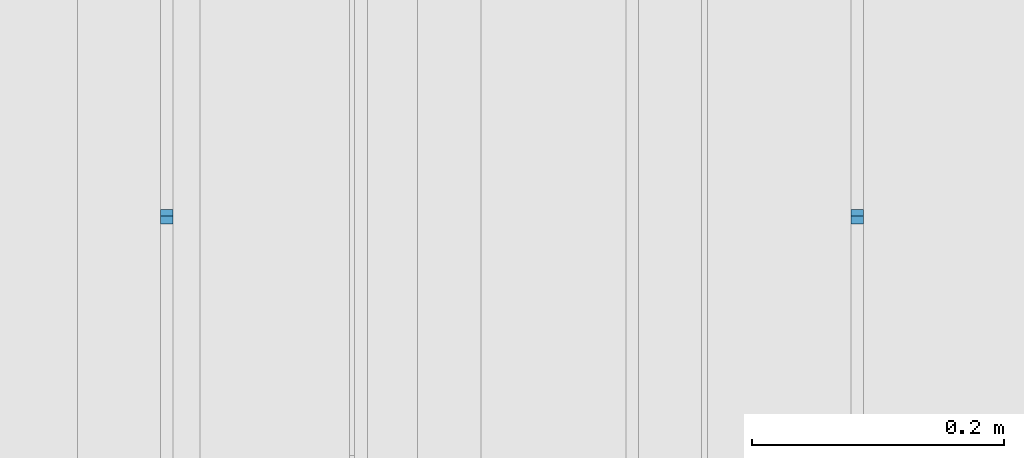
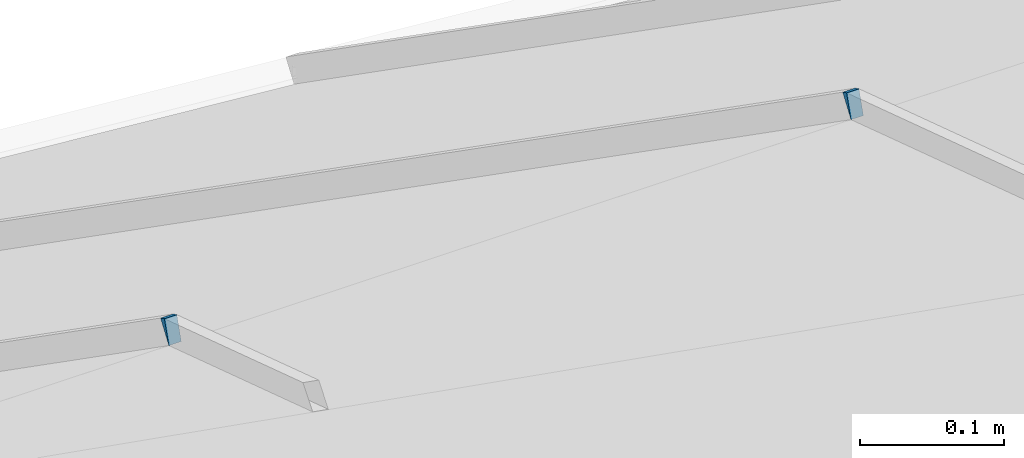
# One storey, part 380 of 583: 2 slabs.
"""IFC2X3 building model written with IfcOpenShell, lengths in metres."""

from ifc_helpers import new_model, entity, si_unit, converted_unit, derived_unit, money_unit, direction, frame, origin_with_axes, place, context, subcontext, project, spatial, faceted_brep, material, type_object, element, save


model = new_model("IFC2X3")

# Units and contexts
model_context = context("Model", 3, precision=1e-05, world=origin_with_axes(), true_north=direction((0.0, 1.0)))
body_context = subcontext(model_context, "Body", "Model", "MODEL_VIEW", scale=1.0)
ifc_project = project(units=[si_unit("LENGTHUNIT", "METRE"), si_unit("AREAUNIT", "SQUARE_METRE"), si_unit("VOLUMEUNIT", "CUBIC_METRE"), si_unit("ABSORBEDDOSEUNIT", "GRAY"), si_unit("AMOUNTOFSUBSTANCEUNIT", "MOLE"), si_unit("DOSEEQUIVALENTUNIT", "SIEVERT"), si_unit("ELECTRICCAPACITANCEUNIT", "FARAD"), si_unit("ELECTRICCHARGEUNIT", "COULOMB"), si_unit("ELECTRICCONDUCTANCEUNIT", "SIEMENS"), si_unit("ELECTRICCURRENTUNIT", "AMPERE"), si_unit("ELECTRICRESISTANCEUNIT", "OHM"), si_unit("ELECTRICVOLTAGEUNIT", "VOLT"), si_unit("ENERGYUNIT", "JOULE"), si_unit("FORCEUNIT", "NEWTON"), si_unit("FREQUENCYUNIT", "HERTZ"), si_unit("ILLUMINANCEUNIT", "LUX"), si_unit("INDUCTANCEUNIT", "HENRY"), si_unit("LUMINOUSFLUXUNIT", "LUMEN"), si_unit("LUMINOUSINTENSITYUNIT", "CANDELA"), si_unit("MAGNETICFLUXDENSITYUNIT", "TESLA"), si_unit("MAGNETICFLUXUNIT", "WEBER"), si_unit("MASSUNIT", "GRAM"), converted_unit("PLANEANGLEUNIT", "degree", entity("IfcReal", 0.0174532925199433), si_unit("PLANEANGLEUNIT", "RADIAN"), dimensions=[0, 0, 0, 0, 0, 0, 0]), si_unit("POWERUNIT", "WATT"), si_unit("PRESSUREUNIT", "PASCAL"), si_unit("RADIOACTIVITYUNIT", "BECQUEREL"), si_unit("SOLIDANGLEUNIT", "STERADIAN"), si_unit("THERMODYNAMICTEMPERATUREUNIT", "KELVIN"), si_unit("TIMEUNIT", "SECOND"), derived_unit("ACCELERATIONUNIT", [(si_unit("LENGTHUNIT", "METRE"), 1), (si_unit("TIMEUNIT", "SECOND"), -2)]), derived_unit("ANGULARVELOCITYUNIT", [(converted_unit("PLANEANGLEUNIT", "degree", entity("IfcReal", 0.0174532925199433), si_unit("PLANEANGLEUNIT", "RADIAN"), dimensions=[0, 0, 0, 0, 0, 0, 0]), 1), (si_unit("TIMEUNIT", "SECOND"), -1)]), derived_unit("CURVATUREUNIT", [(converted_unit("PLANEANGLEUNIT", "degree", entity("IfcReal", 0.0174532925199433), si_unit("PLANEANGLEUNIT", "RADIAN"), dimensions=[0, 0, 0, 0, 0, 0, 0]), 1), (si_unit("LENGTHUNIT", "METRE"), -1)]), derived_unit("DYNAMICVISCOSITYUNIT", [(si_unit("PRESSUREUNIT", "PASCAL"), 1), (si_unit("TIMEUNIT", "SECOND"), 1)]), derived_unit("HEATFLUXDENSITYUNIT", [(si_unit("POWERUNIT", "WATT"), 1), (si_unit("LENGTHUNIT", "METRE"), -2)]), derived_unit("HEATINGVALUEUNIT", [(si_unit("ENERGYUNIT", "JOULE"), 1), (si_unit("MASSUNIT", "GRAM"), -1)]), derived_unit("INTEGERCOUNTRATEUNIT", [(si_unit("TIMEUNIT", "SECOND"), -1)]), derived_unit("IONCONCENTRATIONUNIT", [(si_unit("MASSUNIT", "GRAM"), 1), (si_unit("VOLUMEUNIT", "CUBIC_METRE"), -1)]), derived_unit("ISOTHERMALMOISTURECAPACITYUNIT", [(si_unit("VOLUMEUNIT", "CUBIC_METRE"), 1), (si_unit("MASSUNIT", "GRAM"), -1)]), derived_unit("KINEMATICVISCOSITYUNIT", [(si_unit("AREAUNIT", "SQUARE_METRE"), 1), (si_unit("TIMEUNIT", "SECOND"), -1)]), derived_unit("LINEARFORCEUNIT", [(si_unit("FORCEUNIT", "NEWTON"), 1), (si_unit("LENGTHUNIT", "METRE"), -1)]), derived_unit("LINEARMOMENTUNIT", [(si_unit("FORCEUNIT", "NEWTON"), 1), (si_unit("LENGTHUNIT", "METRE"), -1)]), derived_unit("LINEARSTIFFNESSUNIT", [(si_unit("FORCEUNIT", "NEWTON"), 1), (si_unit("LENGTHUNIT", "METRE"), -1)]), derived_unit("LINEARVELOCITYUNIT", [(si_unit("LENGTHUNIT", "METRE"), 1), (si_unit("TIMEUNIT", "SECOND"), -1)]), derived_unit("LUMINOUSINTENSITYDISTRIBUTIONUNIT", [(si_unit("LUMINOUSINTENSITYUNIT", "CANDELA"), 1), (si_unit("LUMINOUSFLUXUNIT", "LUMEN"), -1)]), derived_unit("MASSDENSITYUNIT", [(si_unit("MASSUNIT", "GRAM"), 1), (si_unit("VOLUMEUNIT", "CUBIC_METRE"), -1)]), derived_unit("MASSFLOWRATEUNIT", [(si_unit("MASSUNIT", "GRAM"), 1), (si_unit("TIMEUNIT", "SECOND"), -1)]), derived_unit("MASSPERLENGTHUNIT", [(si_unit("MASSUNIT", "GRAM"), 1), (si_unit("LENGTHUNIT", "METRE"), -1)]), derived_unit("MODULUSOFELASTICITYUNIT", [(si_unit("FORCEUNIT", "NEWTON"), 1), (si_unit("AREAUNIT", "SQUARE_METRE"), -1)]), derived_unit("MODULUSOFLINEARSUBGRADEREACTIONUNIT", [(si_unit("FORCEUNIT", "NEWTON"), 1), (si_unit("LENGTHUNIT", "METRE"), -2)]), derived_unit("MODULUSOFROTATIONALSUBGRADEREACTIONUNIT", [(si_unit("FORCEUNIT", "NEWTON"), 1), (si_unit("LENGTHUNIT", "METRE"), 1)]), derived_unit("MODULUSOFSUBGRADEREACTIONUNIT", [(si_unit("FORCEUNIT", "NEWTON"), 1), (si_unit("VOLUMEUNIT", "CUBIC_METRE"), -1)]), derived_unit("MOISTUREDIFFUSIVITYUNIT", [(si_unit("VOLUMEUNIT", "CUBIC_METRE"), 1), (si_unit("TIMEUNIT", "SECOND"), -1)]), derived_unit("MOLECULARWEIGHTUNIT", [(si_unit("MASSUNIT", "GRAM"), 1), (si_unit("AMOUNTOFSUBSTANCEUNIT", "MOLE"), -1)]), derived_unit("PLANARFORCEUNIT", [(si_unit("FORCEUNIT", "NEWTON"), 1), (si_unit("LENGTHUNIT", "METRE"), -2)]), derived_unit("ROTATIONALFREQUENCYUNIT", [(si_unit("TIMEUNIT", "SECOND"), -1)]), derived_unit("ROTATIONALMASSUNIT", [(si_unit("MASSUNIT", "GRAM"), 1), (si_unit("LENGTHUNIT", "METRE"), 2)]), derived_unit("ROTATIONALSTIFFNESSUNIT", [(si_unit("FORCEUNIT", "NEWTON"), 1), (si_unit("LENGTHUNIT", "METRE"), 1), (converted_unit("PLANEANGLEUNIT", "degree", entity("IfcReal", 0.0174532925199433), si_unit("PLANEANGLEUNIT", "RADIAN"), dimensions=[0, 0, 0, 0, 0, 0, 0]), -1)]), derived_unit("SECTIONAREAINTEGRALUNIT", [(si_unit("LENGTHUNIT", "METRE"), 5)]), derived_unit("SECTIONMODULUSUNIT", [(si_unit("LENGTHUNIT", "METRE"), 3)]), derived_unit("SHEARMODULUSUNIT", [(si_unit("FORCEUNIT", "NEWTON"), 1), (si_unit("AREAUNIT", "SQUARE_METRE"), -1)]), derived_unit("SOUNDPOWERUNIT", [(si_unit("ENERGYUNIT", "JOULE"), 1), (si_unit("TIMEUNIT", "SECOND"), -1)]), derived_unit("SPECIFICHEATCAPACITYUNIT", [(si_unit("FORCEUNIT", "NEWTON"), 1), (si_unit("MASSUNIT", "GRAM"), -1), (si_unit("THERMODYNAMICTEMPERATUREUNIT", "KELVIN"), -1)]), derived_unit("TEMPERATUREGRADIENTUNIT", [(si_unit("THERMODYNAMICTEMPERATUREUNIT", "KELVIN"), 1), (si_unit("LENGTHUNIT", "METRE"), -1)]), derived_unit("THERMALADMITTANCEUNIT", [(si_unit("POWERUNIT", "WATT"), 1), (si_unit("AREAUNIT", "SQUARE_METRE"), -1), (si_unit("THERMODYNAMICTEMPERATUREUNIT", "KELVIN"), -1)]), derived_unit("THERMALCONDUCTANCEUNIT", [(si_unit("POWERUNIT", "WATT"), 1), (si_unit("LENGTHUNIT", "METRE"), -1), (si_unit("THERMODYNAMICTEMPERATUREUNIT", "KELVIN"), -1)]), derived_unit("THERMALEXPANSIONCOEFFICIENTUNIT", [(si_unit("THERMODYNAMICTEMPERATUREUNIT", "KELVIN"), -1)]), derived_unit("THERMALRESISTANCEUNIT", [(si_unit("AREAUNIT", "SQUARE_METRE"), 1), (si_unit("POWERUNIT", "WATT"), -1)]), derived_unit("THERMALTRANSMITTANCEUNIT", [(si_unit("POWERUNIT", "WATT"), 1), (si_unit("AREAUNIT", "SQUARE_METRE"), -1), (si_unit("THERMODYNAMICTEMPERATUREUNIT", "KELVIN"), -1)]), derived_unit("TORQUEUNIT", [(si_unit("FORCEUNIT", "NEWTON"), 1), (si_unit("LENGTHUNIT", "METRE"), 1)]), derived_unit("VAPORPERMEABILITYUNIT", [(si_unit("MASSUNIT", "GRAM"), 1), (si_unit("TIMEUNIT", "SECOND"), -1)]), derived_unit("VOLUMETRICFLOWRATEUNIT", [(si_unit("VOLUMEUNIT", "CUBIC_METRE"), 1), (si_unit("TIMEUNIT", "SECOND"), -1)]), derived_unit("WARPINGCONSTANTUNIT", [(si_unit("LENGTHUNIT", "METRE"), 6)]), derived_unit("WARPINGMOMENTUNIT", [(si_unit("FORCEUNIT", "NEWTON"), 1), (si_unit("LENGTHUNIT", "METRE"), 2)]), money_unit("GBP")], contexts=[model_context])

# Site, building, storey
site_placement = place(None, origin_with_axes())
site = spatial("IfcSite", under=ifc_project, at=site_placement, Name="Site", CompositionType="ELEMENT")
building_placement = place(site_placement, origin_with_axes())
building = spatial("IfcBuilding", under=site, at=building_placement, Name="Building01", CompositionType="ELEMENT")
storey_placement = place(building_placement, frame((0.0, 0.0, 20.78), z_axis=(0.0, 0.0, 1.0), x_axis=(1.0, 0.0, 0.0)))
storey = spatial("IfcBuildingStorey", under=building, at=storey_placement, Name="RL", CompositionType="ELEMENT", Elevation=20.78)

# Slabs
ifc_material = material(Name="A_BSUK_Roofs")
slab_type = type_object("IfcSlabType", Name="A-FloorsSlabs A_BSUK_Slabs", PredefinedType="FLOOR")
slab_1_placement = place(storey_placement, frame((11.275953, 18.791933, 4.882123), z_axis=(0.0, 1.0, 0.0), x_axis=(1.0, 0.0, 0.0)))
element("IfcSlab", 1, at=slab_1_placement, inside=storey, type_object=slab_type, material=ifc_material, Name="A-FloorsSlabs A_BSUK_Slabs", ObjectType="A-FloorsSlabs A_BSUK_Slabs", context=body_context, shape_type="Brep", body=[
    faceted_brep([(0.0, 0.0, 0.0), (-0.01, 0.0, 0.0), (-0.01, -0.002638, -0.005291), (0.0, -0.002638, -0.005291), (-0.01, 0.016383, -0.011472), (0.0, 0.016383, -0.011472)], [[[0, 1, 2, 3]], [[3, 2, 4, 5]], [[5, 4, 1, 0]], [[1, 4, 2]], [[3, 5, 0]]]),
])
slab_2_placement = place(storey_placement, frame((11.813453, 18.791933, 4.882123), z_axis=(0.0, 1.0, 0.0), x_axis=(1.0, 0.0, 0.0)))
element("IfcSlab", 2, at=slab_2_placement, inside=storey, type_object=slab_type, material=ifc_material, Name="A-FloorsSlabs A_BSUK_Slabs", ObjectType="A-FloorsSlabs A_BSUK_Slabs", context=body_context, shape_type="Brep", body=[
    faceted_brep([(0.0, -0.002638, -0.005291), (0.01, -0.002638, -0.005291), (0.01, 0.0, 0.0), (0.0, 0.0, 0.0), (0.0, 0.016383, -0.011472), (0.01, 0.016383, -0.011472)], [[[0, 1, 2, 3]], [[4, 5, 1, 0]], [[3, 2, 5, 4]], [[1, 5, 2]], [[3, 4, 0]]]),
])

save(model, "model.ifc")
